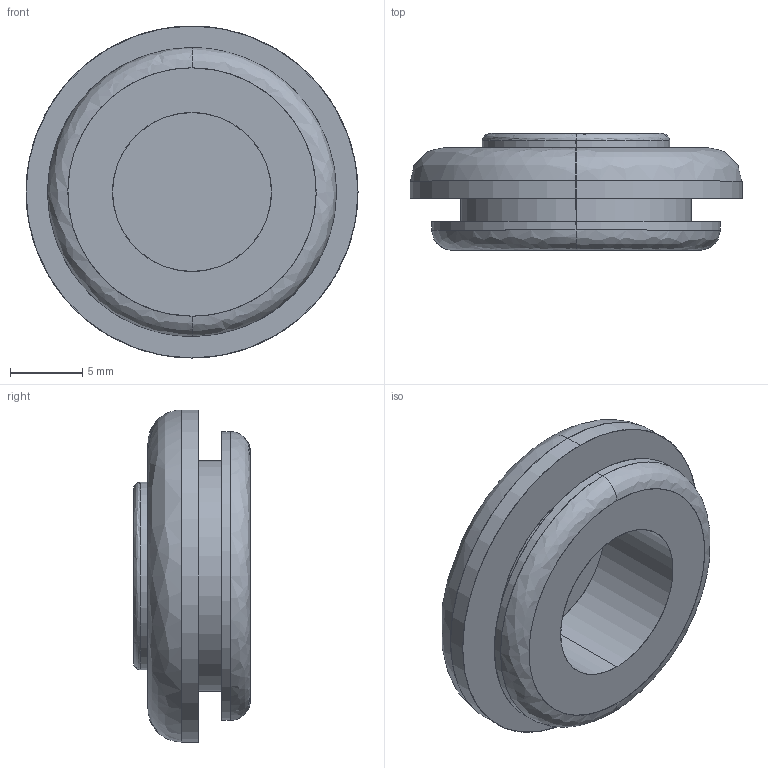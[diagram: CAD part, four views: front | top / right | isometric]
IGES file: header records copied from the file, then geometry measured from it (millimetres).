
Start section: SolidWorks IGES FILE using analytic representation for surfaces
Global section: file name: \\Ls-wvld1d\share\シブタニ\3D設計\ゴム\SG-16A\SG-16A.IGS; native system: SolidWorks 2003 by SolidWorks Corporation; preprocessor: Version 5.3; author: user; date: 130714.103916; units: millimetre
Bounding box: 23 x 8.1 x 23 mm (x, y, z)
Surface area: 1701.9 mm2 (no closed solid volume)
Topology: 0 solids, 0 shells, 25 faces, 456 edges, 456 vertices
Faces by surface type: bspline 13, revolution 12
